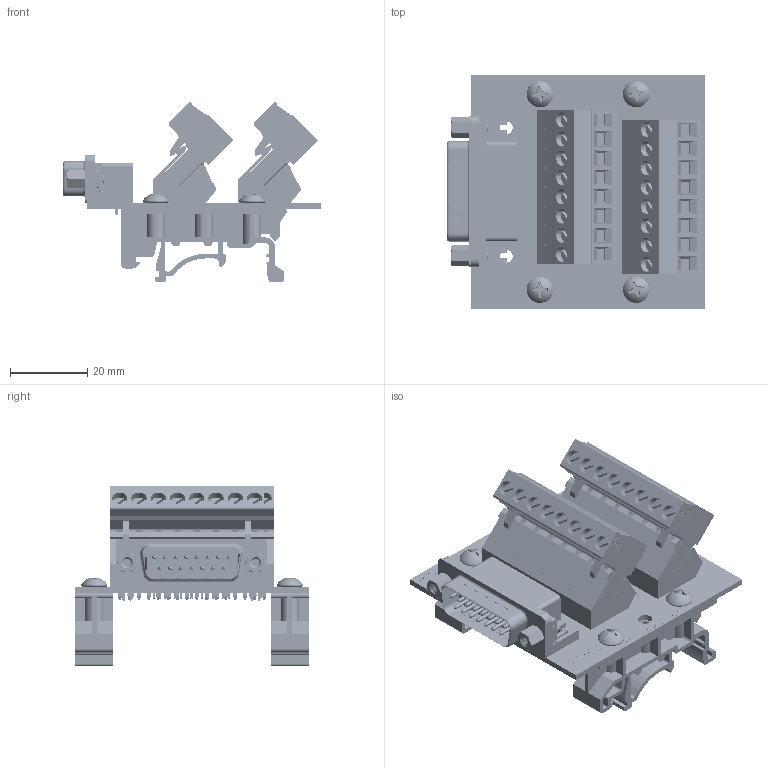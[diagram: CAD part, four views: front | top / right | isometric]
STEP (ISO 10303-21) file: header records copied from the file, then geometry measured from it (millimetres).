
FILE_DESCRIPTION (( 'STEP AP214' ), '1' );
FILE_NAME ('brkld15m-rw-din_rev_a.stp', '2021-02-09T03:45:34', ( '' ), ( '' ), 'SwSTEP 2.0', 'SolidWorks 2017', '' );
FILE_SCHEMA (( 'AUTOMOTIVE_DESIGN' ));
Length unit declared in the file: inch
Products named in the file (7): BRKLD15M Board; brkld15m-rw-din_rev_a; Male Right Angle 15 Pin Jackscrew; Screw_SCSMPP-6-0.375_90184A127; angled terminals 8; Screw Terminal 8; dinm01
Assembly tree (12 placements, depth 2):
  brkld15m-rw-din_rev_a
    BRKLD15M Board
    angled terminals 8  x2
    dinm01  x2
    Screw Terminal 8  x2
    Screw_SCSMPP-6-0.375_90184A127  x4
    Male Right Angle 15 Pin Jackscrew
Bounding box: 67.19 x 60.96 x 46.77 mm (x, y, z)
Volume: 37972.1 mm3; surface area: 39877.9 mm2
Topology: 125 solids, 125 shells, 7034 faces, 17785 edges, 11226 vertices
Faces by surface type: plane 3591, cylinder 1664, bspline 1658, cone 98, torus 15, sphere 8
Entity records: 322153 total; most frequent: CARTESIAN_POINT 124640, ORIENTED_EDGE 28770, DIRECTION 22133, EDGE_CURVE 14385, VERTEX_POINT 9088, LINE 8433, VECTOR 8433, AXIS2_PLACEMENT_3D 6850
